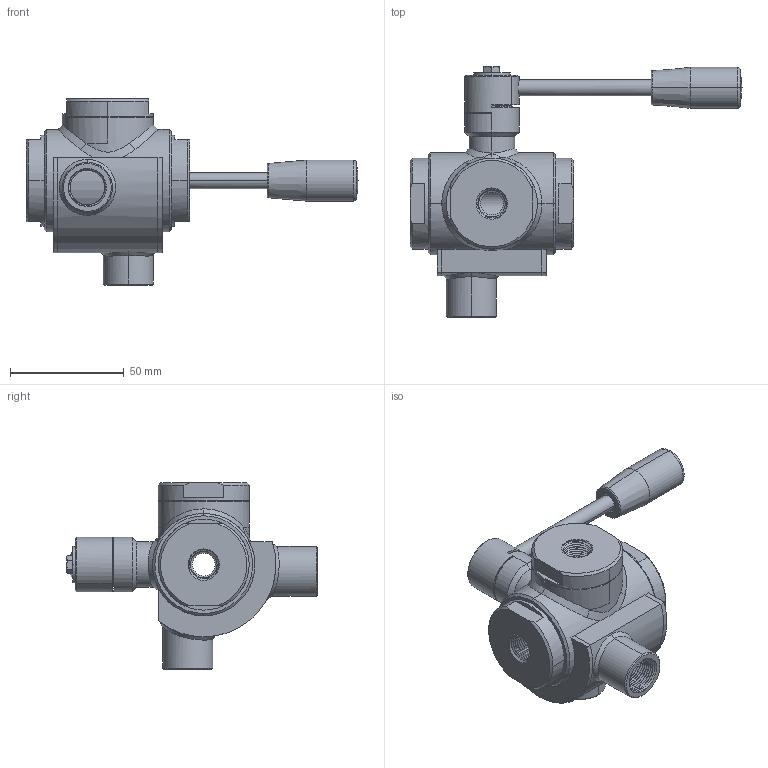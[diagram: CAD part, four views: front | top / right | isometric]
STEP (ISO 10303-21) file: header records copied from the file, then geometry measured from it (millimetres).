
FILE_DESCRIPTION((''),'2;1');
FILE_NAME('300101C60410_SW0001','2026-05-08T10:24:39',('tecnico2'),('CDM Tecnoconsulting'),'CREO PARAMETRIC BY PTC INC, 2024063','CREO PARAMETRIC BY PTC INC, 2024063','');
FILE_SCHEMA(('CONFIG_CONTROL_DESIGN','SHAPE_APPEARANCE_LAYERS_GROUPS'));
Products named in the file (1): 300101C60410_SW0001
Bounding box: 146 x 110.3 x 82 mm (x, y, z)
Volume: 145101.1 mm3; surface area: 59435.2 mm2
Topology: 1 solids, 3 shells, 1187 faces, 3219 edges, 2058 vertices
Faces by surface type: plane 412, cylinder 305, extrusion 158, cone 147, bspline 129, torus 32, sphere 4
Entity records: 108502 total; most frequent: CARTESIAN_POINT 67788, ORIENTED_EDGE 6394, DIRECTION 4688, PRESENTATION_STYLE_ASSIGNMENT 3713, STYLED_ITEM 3302, CURVE_STYLE 3299, EDGE_CURVE 3197, VERTEX_POINT 2058
